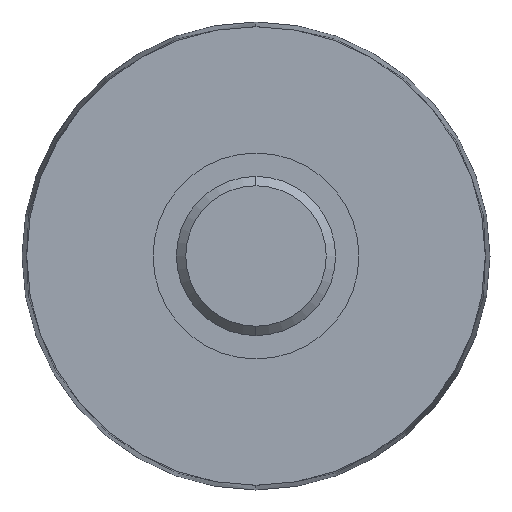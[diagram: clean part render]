
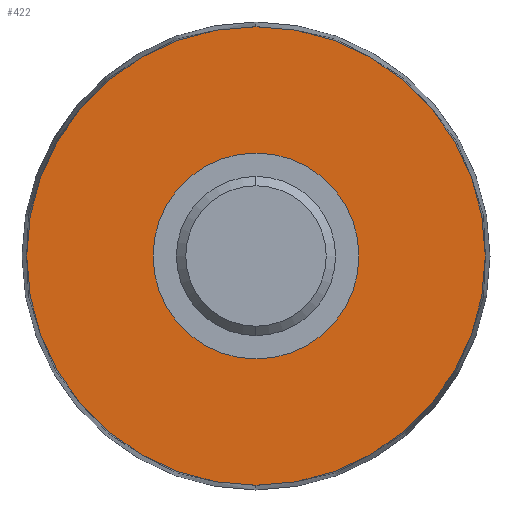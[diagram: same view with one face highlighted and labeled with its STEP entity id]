
A CAD part, left-side view. The second image highlights one B-rep face of the part: STEP entity #422.
In plain terms, the highlighted planar face has unit normal (-1, 0, 0).
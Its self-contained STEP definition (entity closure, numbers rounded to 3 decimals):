
#6 = DIRECTION ( 'NONE',  ( -1., 0., 0. ) ) ;
#11 = CARTESIAN_POINT ( 'NONE',  ( 24.5, 0., 0. ) ) ;
#13 = CARTESIAN_POINT ( 'NONE',  ( 24.5, 0., 11. ) ) ;
#16 = DIRECTION ( 'NONE',  ( 0., 0., 1. ) ) ;
#21 = AXIS2_PLACEMENT_3D ( 'NONE', #11, #6, #16 ) ;
#30 = CIRCLE ( 'NONE', #21, 11. ) ;
#103 = CIRCLE ( 'NONE', #119, 24.5 ) ;
#106 = DIRECTION ( 'NONE',  ( -1., 0., 0. ) ) ;
#107 = DIRECTION ( 'NONE',  ( 0., 0., 1. ) ) ;
#114 = CARTESIAN_POINT ( 'NONE',  ( 24.5, 0., -11. ) ) ;
#115 = CARTESIAN_POINT ( 'NONE',  ( 24.5, 0., 0. ) ) ;
#119 = AXIS2_PLACEMENT_3D ( 'NONE', #115, #106, #107 ) ;
#128 = CARTESIAN_POINT ( 'NONE',  ( 24.5, 0., -24.5 ) ) ;
#143 = CARTESIAN_POINT ( 'NONE',  ( 24.5, 0., 24.5 ) ) ;
#196 = DIRECTION ( 'NONE',  ( -1., 0., 0. ) ) ;
#197 = AXIS2_PLACEMENT_3D ( 'NONE', #203, #196, #201 ) ;
#198 = CIRCLE ( 'NONE', #197, 24.5 ) ;
#201 = DIRECTION ( 'NONE',  ( 0., 0., 1. ) ) ;
#203 = CARTESIAN_POINT ( 'NONE',  ( 24.5, 0., 0. ) ) ;
#224 = VERTEX_POINT ( 'NONE', #13 ) ;
#234 = EDGE_CURVE ( 'NONE', #224, #258, #30, .T. ) ;
#250 = EDGE_CURVE ( 'NONE', #274, #276, #103, .T. ) ;
#258 = VERTEX_POINT ( 'NONE', #114 ) ;
#274 = VERTEX_POINT ( 'NONE', #143 ) ;
#276 = VERTEX_POINT ( 'NONE', #128 ) ;
#354 = ORIENTED_EDGE ( 'NONE', *, *, #448, .T. ) ;
#388 = ORIENTED_EDGE ( 'NONE', *, *, #250, .T. ) ;
#389 = EDGE_LOOP ( 'NONE', ( #354, #388 ) ) ;
#394 = EDGE_LOOP ( 'NONE', ( #423, #396 ) ) ;
#395 = EDGE_CURVE ( 'NONE', #258, #224, #676, .T. ) ;
#396 = ORIENTED_EDGE ( 'NONE', *, *, #395, .F. ) ;
#422 = ADVANCED_FACE ( 'NONE', ( #536, #544 ), #545, .F. ) ;
#423 = ORIENTED_EDGE ( 'NONE', *, *, #234, .F. ) ;
#448 = EDGE_CURVE ( 'NONE', #276, #274, #198, .T. ) ;
#536 = FACE_BOUND ( 'NONE', #394, .T. ) ;
#537 = DIRECTION ( 'NONE',  ( 1., 0., 0. ) ) ;
#538 = CARTESIAN_POINT ( 'NONE',  ( 24.5, 24.5, 0. ) ) ;
#539 = DIRECTION ( 'NONE',  ( 0., 0., -1. ) ) ;
#544 = FACE_OUTER_BOUND ( 'NONE', #389, .T. ) ;
#545 = PLANE ( 'NONE',  #547 ) ;
#547 = AXIS2_PLACEMENT_3D ( 'NONE', #538, #537, #539 ) ;
#676 = CIRCLE ( 'NONE', #680, 11. ) ;
#677 = CARTESIAN_POINT ( 'NONE',  ( 24.5, 0., 0. ) ) ;
#678 = DIRECTION ( 'NONE',  ( -1., 0., 0. ) ) ;
#679 = DIRECTION ( 'NONE',  ( 0., 0., 1. ) ) ;
#680 = AXIS2_PLACEMENT_3D ( 'NONE', #677, #678, #679 ) ;
